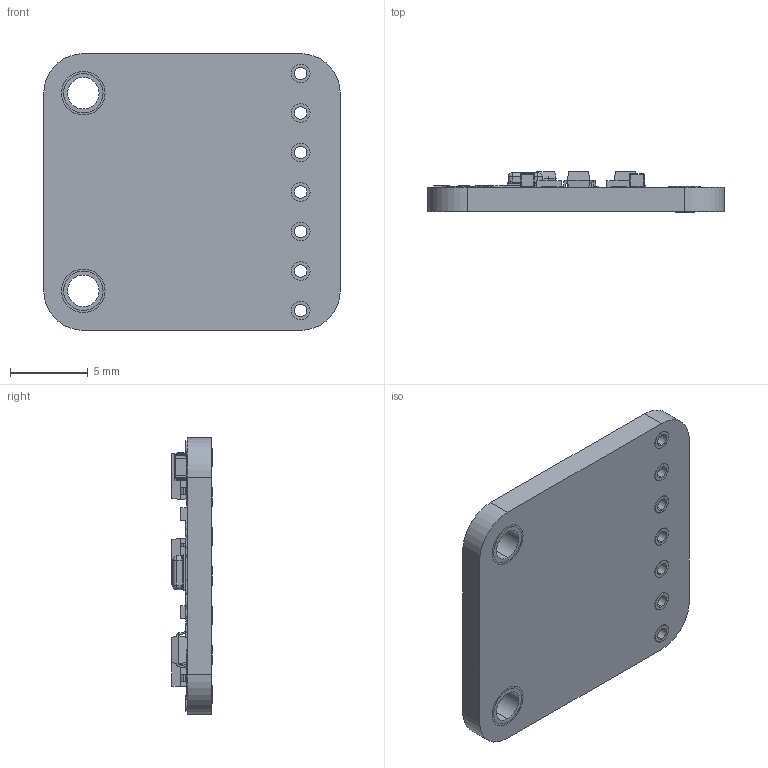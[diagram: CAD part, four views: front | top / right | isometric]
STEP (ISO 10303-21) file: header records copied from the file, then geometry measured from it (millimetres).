
FILE_DESCRIPTION (( 'STEP AP214' ), '1' );
FILE_NAME ('User Library-BME280-2.STEP', '2022-01-17T00:11:51', ( '' ), ( '' ), 'SwSTEP 2.0', 'SolidWorks 2021', '' );
FILE_SCHEMA (( 'AUTOMOTIVE_DESIGN' ));
Length unit declared in the file: millimetre
Products named in the file (14): LD2985BM33R v1; BSS138 v1; cercle dor_X_E9; Sensor BME280 v1; CtsPad_01; SMD-Widerstand_CRL0603 v2; SMD-Kondensator_gelb_0603 v2; User Library-BME280-2; Lettre; BME280_1; logo datafruit; PCB_01; BAS16HT1G_SOD-323 v1; ScrewPad_M2_01
Assembly tree (27 placements, depth 3):
  User Library-BME280-2
    BME280_1
      PCB_01
      ScrewPad_M2_01  x2
      CtsPad_01  x7
    Sensor BME280 v1
    SMD-Kondensator_gelb_0603 v2  x2
    LD2985BM33R v1
    BAS16HT1G_SOD-323 v1
    SMD-Widerstand_CRL0603 v2  x5
    BSS138 v1  x2
    cercle dor_X_E9  x2
    Lettre
    logo datafruit
Bounding box: 19.05 x 2.6 x 17.78 mm (x, y, z)
Volume: 530.9 mm3; surface area: 1158.1 mm2
Topology: 58 solids, 58 shells, 1318 faces, 3358 edges, 2146 vertices
Faces by surface type: plane 720, bspline 332, cylinder 262, torus 4
Entity records: 46889 total; most frequent: CARTESIAN_POINT 11198, ORIENTED_EDGE 5358, DIRECTION 3798, EDGE_CURVE 2679, VERTEX_POINT 1758, LINE 1736, VECTOR 1736, EDGE_LOOP 1111
